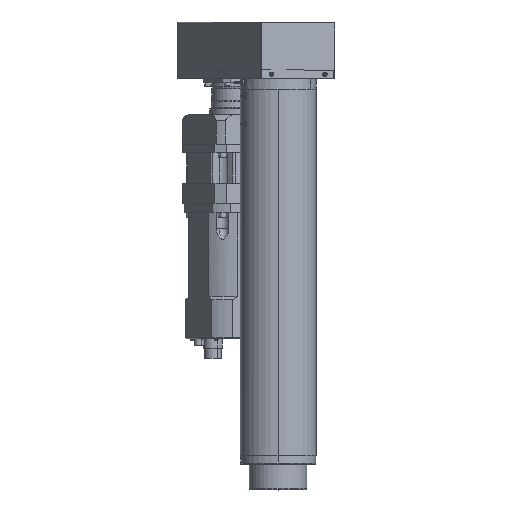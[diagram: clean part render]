
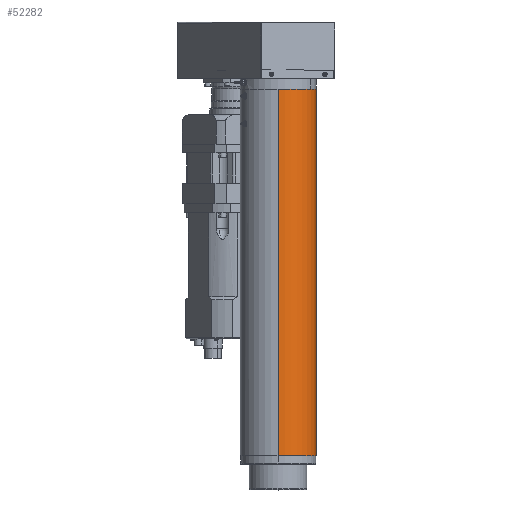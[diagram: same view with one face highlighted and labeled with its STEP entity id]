
A CAD part, top view. The second image highlights one B-rep face of the part: STEP entity #52282.
In plain terms, the highlighted cylindrical face has radius 89 mm (diameter 178 mm), a partial arc.
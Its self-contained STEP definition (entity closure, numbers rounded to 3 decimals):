
#136 = LINE ( 'NONE', #42876, #45643 ) ;
#439 = CIRCLE ( 'NONE', #36168, 89. ) ;
#612 = CYLINDRICAL_SURFACE ( 'NONE', #32947, 89. ) ;
#3611 = DIRECTION ( 'NONE',  ( 0., 0., -1. ) ) ;
#5977 = VERTEX_POINT ( 'NONE', #51984 ) ;
#9215 = DIRECTION ( 'NONE',  ( 0., -1., 0. ) ) ;
#9262 = EDGE_CURVE ( 'NONE', #51915, #66906, #58832, .T. ) ;
#12511 = CARTESIAN_POINT ( 'NONE',  ( 0., 20., -89. ) ) ;
#13266 = EDGE_CURVE ( 'NONE', #41000, #66906, #439, .T. ) ;
#15057 = CARTESIAN_POINT ( 'NONE',  ( 0., 20., 89. ) ) ;
#21288 = ORIENTED_EDGE ( 'NONE', *, *, #13266, .F. ) ;
#28671 = DIRECTION ( 'NONE',  ( 0., 0., -1. ) ) ;
#30507 = ORIENTED_EDGE ( 'NONE', *, *, #40049, .T. ) ;
#32021 = EDGE_LOOP ( 'NONE', ( #30507, #34474, #21288, #55643 ) ) ;
#32947 = AXIS2_PLACEMENT_3D ( 'NONE', #49930, #33854, #28671 ) ;
#33854 = DIRECTION ( 'NONE',  ( 0., -1., 0. ) ) ;
#34474 = ORIENTED_EDGE ( 'NONE', *, *, #9262, .T. ) ;
#36168 = AXIS2_PLACEMENT_3D ( 'NONE', #58439, #64730, #37494 ) ;
#37494 = DIRECTION ( 'NONE',  ( 0., 0., -1. ) ) ;
#40049 = EDGE_CURVE ( 'NONE', #5977, #51915, #52380, .T. ) ;
#41000 = VERTEX_POINT ( 'NONE', #12511 ) ;
#42876 = CARTESIAN_POINT ( 'NONE',  ( 0., 0., -89. ) ) ;
#45643 = VECTOR ( 'NONE', #64131, 1000. ) ;
#49930 = CARTESIAN_POINT ( 'NONE',  ( 0., 0., 0. ) ) ;
#51915 = VERTEX_POINT ( 'NONE', #66249 ) ;
#51984 = CARTESIAN_POINT ( 'NONE',  ( 0., 880., -89. ) ) ;
#52282 = ADVANCED_FACE ( 'NONE', ( #58347 ), #612, .T. ) ;
#52380 = CIRCLE ( 'NONE', #61320, 89. ) ;
#53420 = VECTOR ( 'NONE', #68276, 1000. ) ;
#55284 = EDGE_CURVE ( 'NONE', #5977, #41000, #136, .T. ) ;
#55643 = ORIENTED_EDGE ( 'NONE', *, *, #55284, .F. ) ;
#58347 = FACE_OUTER_BOUND ( 'NONE', #32021, .T. ) ;
#58439 = CARTESIAN_POINT ( 'NONE',  ( 0., 20., 0. ) ) ;
#58832 = LINE ( 'NONE', #59194, #53420 ) ;
#59194 = CARTESIAN_POINT ( 'NONE',  ( 0., 0., 89. ) ) ;
#61320 = AXIS2_PLACEMENT_3D ( 'NONE', #62992, #9215, #3611 ) ;
#62992 = CARTESIAN_POINT ( 'NONE',  ( 0., 880., 0. ) ) ;
#64131 = DIRECTION ( 'NONE',  ( 0., -1., 0. ) ) ;
#64730 = DIRECTION ( 'NONE',  ( 0., -1., 0. ) ) ;
#66249 = CARTESIAN_POINT ( 'NONE',  ( 0., 880., 89. ) ) ;
#66906 = VERTEX_POINT ( 'NONE', #15057 ) ;
#68276 = DIRECTION ( 'NONE',  ( 0., -1., 0. ) ) ;
